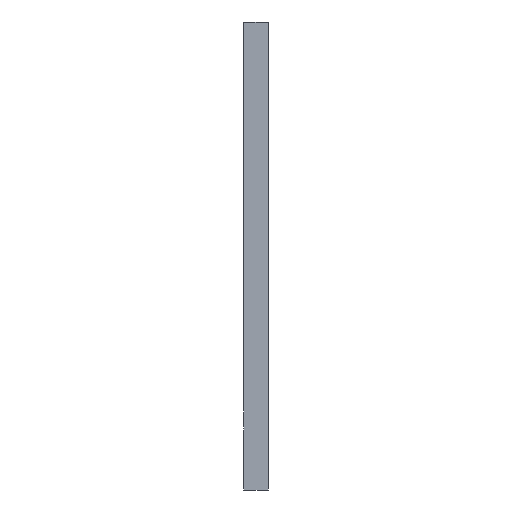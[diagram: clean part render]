
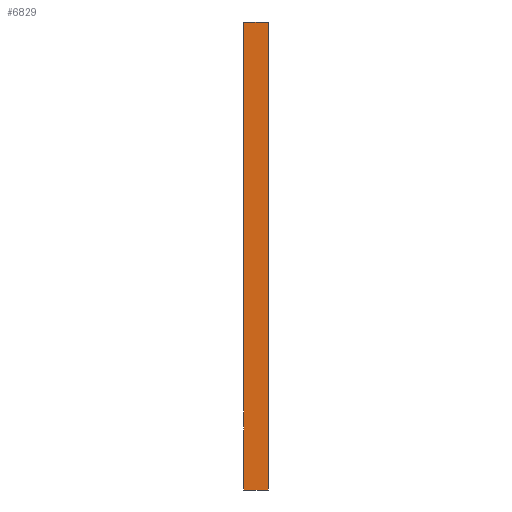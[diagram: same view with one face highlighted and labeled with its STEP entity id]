
A CAD part, front view. The second image highlights one B-rep face of the part: STEP entity #6829.
In plain terms, the highlighted planar face has unit normal (0, -1, 0).
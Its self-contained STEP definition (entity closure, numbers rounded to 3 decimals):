
#1109 = CARTESIAN_POINT ( 'NONE',  ( -21.5, 0., -45.5 ) ) ;
#1157 = VECTOR ( 'NONE', #3669, 1000. ) ;
#2890 = LINE ( 'NONE', #23426, #21343 ) ;
#3669 = DIRECTION ( 'NONE',  ( 0., 0., 1. ) ) ;
#3804 = EDGE_CURVE ( 'NONE', #9795, #5427, #2890, .T. ) ;
#5095 = EDGE_CURVE ( 'NONE', #21764, #9539, #16149, .T. ) ;
#5252 = ORIENTED_EDGE ( 'NONE', *, *, #14680, .F. ) ;
#5427 = VERTEX_POINT ( 'NONE', #1109 ) ;
#6829 = ADVANCED_FACE ( 'NONE', ( #8772 ), #21676, .T. ) ;
#6932 = CARTESIAN_POINT ( 'NONE',  ( -24., 0., -45.5 ) ) ;
#7394 = CARTESIAN_POINT ( 'NONE',  ( -21.5, 0., -45.5 ) ) ;
#8772 = FACE_OUTER_BOUND ( 'NONE', #15130, .T. ) ;
#9099 = LINE ( 'NONE', #7394, #23397 ) ;
#9469 = AXIS2_PLACEMENT_3D ( 'NONE', #19574, #14334, #23437 ) ;
#9539 = VERTEX_POINT ( 'NONE', #11352 ) ;
#9795 = VERTEX_POINT ( 'NONE', #22832 ) ;
#10669 = DIRECTION ( 'NONE',  ( 1., 0., 0. ) ) ;
#11352 = CARTESIAN_POINT ( 'NONE',  ( -24., 0., 2.5 ) ) ;
#14334 = DIRECTION ( 'NONE',  ( 0., -1., 0. ) ) ;
#14438 = CARTESIAN_POINT ( 'NONE',  ( 24., 0., 2.5 ) ) ;
#14680 = EDGE_CURVE ( 'NONE', #9539, #9795, #17143, .T. ) ;
#15130 = EDGE_LOOP ( 'NONE', ( #23614, #5252, #22273, #22755 ) ) ;
#16123 = DIRECTION ( 'NONE',  ( 0., 0., -1. ) ) ;
#16149 = LINE ( 'NONE', #6932, #1157 ) ;
#17143 = LINE ( 'NONE', #14438, #20358 ) ;
#19574 = CARTESIAN_POINT ( 'NONE',  ( 0., 0., 0. ) ) ;
#20358 = VECTOR ( 'NONE', #10669, 1000. ) ;
#21343 = VECTOR ( 'NONE', #16123, 1000. ) ;
#21628 = EDGE_CURVE ( 'NONE', #5427, #21764, #9099, .T. ) ;
#21676 = PLANE ( 'NONE',  #9469 ) ;
#21764 = VERTEX_POINT ( 'NONE', #22566 ) ;
#22273 = ORIENTED_EDGE ( 'NONE', *, *, #5095, .F. ) ;
#22566 = CARTESIAN_POINT ( 'NONE',  ( -24., 0., -45.5 ) ) ;
#22755 = ORIENTED_EDGE ( 'NONE', *, *, #21628, .F. ) ;
#22832 = CARTESIAN_POINT ( 'NONE',  ( -21.5, 0., 2.5 ) ) ;
#23397 = VECTOR ( 'NONE', #23901, 1000. ) ;
#23426 = CARTESIAN_POINT ( 'NONE',  ( -21.5, 0., 0. ) ) ;
#23437 = DIRECTION ( 'NONE',  ( 0., 0., -1. ) ) ;
#23614 = ORIENTED_EDGE ( 'NONE', *, *, #3804, .F. ) ;
#23901 = DIRECTION ( 'NONE',  ( -1., 0., 0. ) ) ;
